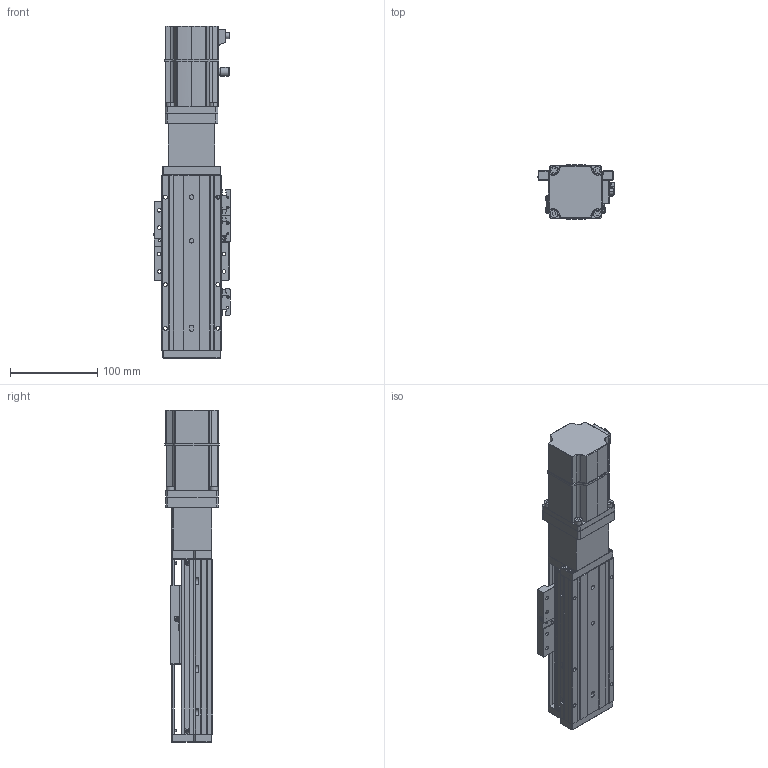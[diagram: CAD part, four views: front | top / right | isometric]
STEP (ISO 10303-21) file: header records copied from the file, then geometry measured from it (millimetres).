
FILE_DESCRIPTION (( 'STEP AP203' ), '1' );
FILE_NAME ('KTHAL60-50-BC-M20-C4L.step', '2022-12-16T01:58:34', ( '微软用户' ), ( '微软中国' ), 'SwSTEP 2.0', 'SolidWorks 2020', '' );
FILE_SCHEMA (( 'CONFIG_CONTROL_DESIGN' ));
Length unit declared in the file: millimetre
Products named in the file (18): EE_SX911P_R; CTHA60-027; KTHA60-001_200; CTHA60-017; CTHA60-013; KTHLA60-002; CTHA60-021; CTHA60-006-3_M20B; KTHA60-004; GBT 70.1-M4×16; _X2_4E0983F1_X0_200W_1; KTHA60-005; GBT77-2000M3-3; KTHAL60-50-BC-M20-C4L; GB¨uT 70.2-M3¡Á5_M3¡Á6; GBT 70.1-M3℅6; GBT 70.3-M3℅6; CTHA60-016
Assembly tree (48 placements, depth 2):
  KTHAL60-50-BC-M20-C4L
    KTHA60-001_200
    KTHLA60-002
    KTHA60-004
    KTHA60-005
    GB¨uT 70.2-M3¡Á5_M3¡Á6  x5
    GBT 70.3-M3℅6  x6
    EE_SX911P_R  x3
    CTHA60-017  x3
    CTHA60-021  x2
    GBT 70.1-M4×16  x8
    GBT77-2000M3-3  x6
    GBT 70.1-M3℅6  x6
    CTHA60-016
    CTHA60-027
    CTHA60-013
    CTHA60-006-3_M20B
    _X2_4E0983F1_X0_200W_1
Bounding box: 87.82 x 62.42 x 379.7 mm (x, y, z)
Volume: 932167 mm3; surface area: 209924.8 mm2
Topology: 51 solids, 51 shells, 2226 faces, 5243 edges, 3205 vertices
Faces by surface type: plane 1201, cylinder 579, cone 285, torus 78, bspline 69, sphere 14
Entity records: 39189 total; most frequent: CARTESIAN_POINT 7606, DIRECTION 6128, ORIENTED_EDGE 5882, EDGE_CURVE 2941, AXIS2_PLACEMENT_3D 2119, LINE 1890, VECTOR 1890, VERTEX_POINT 1827
